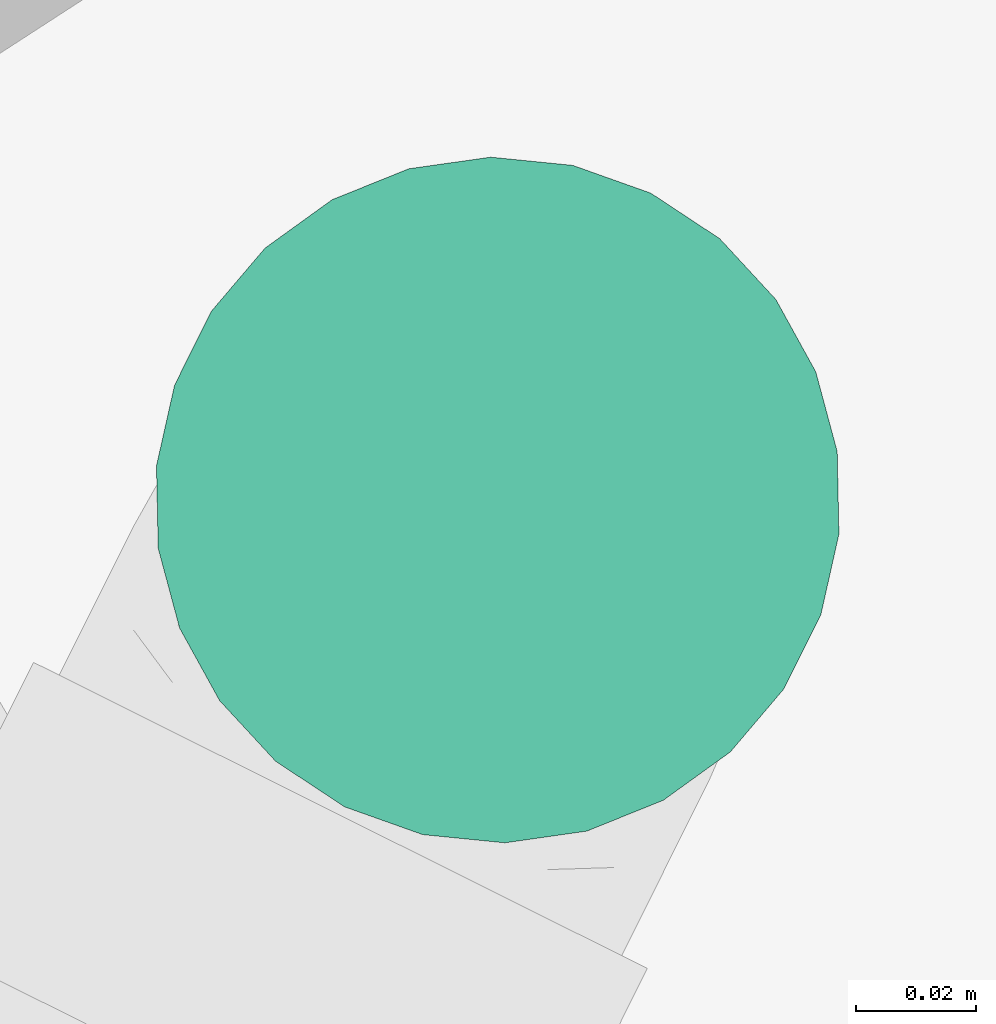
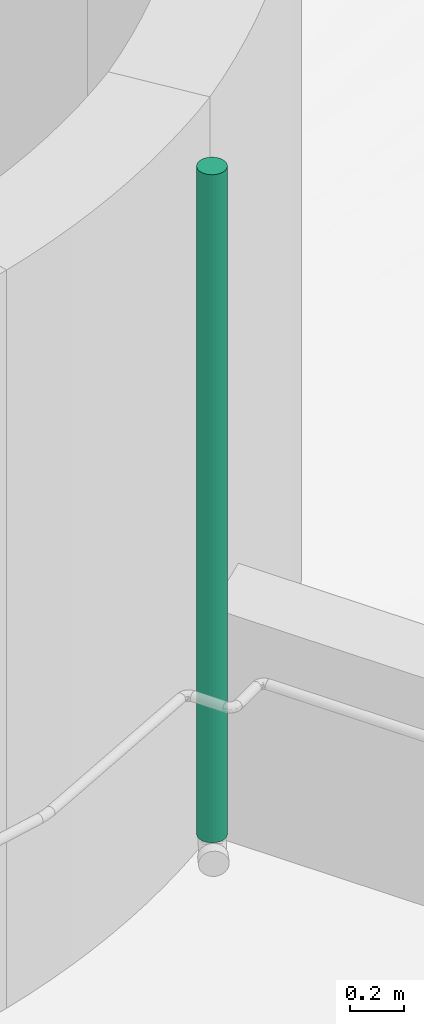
# One storey, part 15 of 34: 1 flow segment.
"""IFC2X3 building model written with IfcOpenShell, lengths in metres."""

import ifcopenshell
import ifcopenshell.guid

model = None  # the IFC model being written
_history = None  # IfcOwnerHistory: only IFC2X3 demands one
_inside = {}  # id of a spatial element -> (the spatial element, [elements in it])
_under = {}  # id of a project, library or spatial element -> (it, [spatial elements below it])
_declared = {}  # id of a project -> (the project, [libraries it declares])
_typed = {}  # id of a type object -> (the type object, [elements of that type])
_made_of = {}  # id of a material, layer set ... -> (it, [elements and type objects made of it])


def new_model(schema):
    """Start an empty IFC model of exactly this schema.

    Asked for "IFC4X3", IfcOpenShell would pick the latest addendum, in which some entities
    have other attributes; the version numbers below select the first issue.
    IFC2X3 requires an IfcOwnerHistory on every rooted entity: one is made here for all.
    """
    global model, _history
    if schema == "IFC4X3":
        model = ifcopenshell.file(schema_version=(4, 3, 0, 0))
    else:
        model = ifcopenshell.file(schema=schema)
    _inside.clear()
    _under.clear()
    _declared.clear()
    _typed.clear()
    _made_of.clear()
    _history = None
    if model.schema == "IFC2X3":
        org = make("IfcOrganization", Name="unknown")
        user = make(
            "IfcPersonAndOrganization",
            ThePerson=make("IfcPerson", FamilyName="unknown"),
            TheOrganization=org,
        )
        app = make(
            "IfcApplication",
            ApplicationDeveloper=org,
            Version="unknown",
            ApplicationFullName="unknown",
            ApplicationIdentifier="unknown",
        )
        _history = make(
            "IfcOwnerHistory",
            OwningUser=user,
            OwningApplication=app,
            ChangeAction="ADDED",
            CreationDate=0,
        )
    return model


def make(cls, **values):
    """One entity of the class cls with the attributes given. An attribute that is None is left unset."""
    return model.create_entity(
        cls, **{name: value for name, value in values.items() if value is not None}
    )


def entity(cls, *values):
    """Any entity or typed value of the class cls, its attributes in the order of the schema. None: left unset."""
    e = model.create_entity(cls)
    for i, value in enumerate(values):
        if value is not None:
            e[i] = value
    return e


def rooted(cls, **values):
    """An entity with a GlobalId (a new one), such as an element, a storey or a relation."""
    return make(cls, GlobalId=ifcopenshell.guid.new(), OwnerHistory=_history, **values)


def si_unit(unit_type, name, prefix=None):
    """IfcSIUnit, for example si_unit("LENGTHUNIT", "METRE", prefix="MILLI")."""
    return make("IfcSIUnit", UnitType=unit_type, Prefix=prefix, Name=name)


def converted_unit(unit_type, name, factor, base, dimensions=None, offset=None):
    """IfcConversionBasedUnit, such as the inch: factor (a typed value) times the base unit."""
    return make(
        "IfcConversionBasedUnit"
        if offset is None
        else "IfcConversionBasedUnitWithOffset",
        ConversionOffset=offset,
        Dimensions=None
        if dimensions is None
        else entity("IfcDimensionalExponents", *dimensions),
        UnitType=unit_type,
        Name=name,
        ConversionFactor=make(
            "IfcMeasureWithUnit", ValueComponent=factor, UnitComponent=base
        ),
    )


def derived_unit(unit_type, elements):
    """IfcDerivedUnit: a product of units, each with its exponent."""
    return make(
        "IfcDerivedUnit",
        Elements=[
            make("IfcDerivedUnitElement", Unit=unit, Exponent=power)
            for unit, power in elements
        ],
        UnitType=unit_type,
    )


def assignment(units):
    """IfcUnitAssignment: the units of a project."""
    return None if units is None else make("IfcUnitAssignment", Units=units)


def point(xyz):
    """IfcCartesianPoint."""
    return None if xyz is None else make("IfcCartesianPoint", Coordinates=xyz)


def direction(xyz):
    """IfcDirection."""
    return None if xyz is None else make("IfcDirection", DirectionRatios=xyz)


def frame(location, z_axis=None, x_axis=None):
    """IfcAxis2Placement3D, a coordinate frame: its origin and axes. An axis left out is left unset."""
    return make(
        "IfcAxis2Placement3D",
        Location=point(location),
        Axis=direction(z_axis),
        RefDirection=direction(x_axis),
    )


def frame_2d(location, x_axis=None):
    """IfcAxis2Placement2D, a coordinate frame in the plane: its origin and x axis."""
    return make(
        "IfcAxis2Placement2D", Location=point(location), RefDirection=direction(x_axis)
    )


def origin():
    """The frame at (0, 0, 0) with its axes left unset."""
    return frame((0.0, 0.0, 0.0))


def origin_2d_with_axis():
    """The frame at (0, 0) in the plane with the x axis (1, 0) written out."""
    return frame_2d((0.0, 0.0), x_axis=(1.0, 0.0))


def place(relative_to, where):
    """IfcLocalPlacement: puts the frame where relative to a parent placement (None: the world)."""
    return make(
        "IfcLocalPlacement", PlacementRelTo=relative_to, RelativePlacement=where
    )


def context(
    kind, dimensions, precision=None, world=None, true_north=None, identifier=None
):
    """IfcGeometricRepresentationContext, for example the 3D "Model" context."""
    return make(
        "IfcGeometricRepresentationContext",
        ContextIdentifier=identifier,
        ContextType=kind,
        CoordinateSpaceDimension=dimensions,
        Precision=precision,
        WorldCoordinateSystem=world,
        TrueNorth=true_north,
    )


def subcontext(parent, identifier, kind, view, scale=None):
    """IfcGeometricRepresentationSubContext, for example "Body" below "Model"."""
    return make(
        "IfcGeometricRepresentationSubContext",
        ContextIdentifier=identifier,
        ContextType=kind,
        ParentContext=parent,
        TargetScale=scale,
        TargetView=view,
    )


def project(units=None, contexts=None):
    """IfcProject with its units and contexts."""
    return rooted(
        "IfcProject",
        Name="project",
        RepresentationContexts=contexts,
        UnitsInContext=assignment(units),
    )


def spatial(cls, under=None, at=None, **own):
    """A site, building, storey or space (cls), placed at a placement, below another one or the project."""
    s = rooted(cls, ObjectPlacement=at, **own)
    if under is not None:
        _under.setdefault(under.id(), (under, []))[1].append(s)
    return s


def profile(cls, at=None, kind="AREA", **sizes):
    """A parametric profile (cls). Its sizes go by their IFC names, for example OverallWidth=200.0."""
    return make(cls, ProfileType=kind, Position=at, **sizes)


def circle(**sizes):
    """IfcCircleProfileDef."""
    return profile("IfcCircleProfileDef", **sizes)


def extrude(swept, where, along, depth):
    """IfcExtrudedAreaSolid: the profile swept, set in the frame where, extruded along a direction by depth."""
    return make(
        "IfcExtrudedAreaSolid",
        SweptArea=swept,
        Position=where,
        ExtrudedDirection=direction(along),
        Depth=depth,
    )


def shape(context_of_items, identifier, shape_type, items):
    """IfcShapeRepresentation: the items that make up one representation, for example the "Body"."""
    return make(
        "IfcShapeRepresentation",
        ContextOfItems=context_of_items,
        RepresentationIdentifier=identifier,
        RepresentationType=shape_type,
        Items=items,
    )


def made_of(thing, what):
    """Note that an element or type object is made of a material, layer set ...; save() writes the relation."""
    if what is not None:
        _made_of.setdefault(what.id(), (what, []))[1].append(thing)
    return thing


def type_object(cls, material=None, **own):
    """A type object (cls), such as IfcWallType, which elements share."""
    return made_of(rooted(cls, **own), material)


def element(
    cls,
    number,
    at=None,
    inside=None,
    cuts=None,
    type_object=None,
    material=None,
    context=None,
    identifier="Body",
    shape_type=None,
    held_by="IfcProductDefinitionShape",
    body=None,
    shapes=None,
    **own,
):
    """One element of the class cls, such as IfcWall. Its Tag is "e" and its number.

    at: its placement. inside: the storey or other place that contains it. cuts: it is an
    opening in that element (IfcRelVoidsElement). A single representation is given by context,
    identifier, shape_type and body (its items); several are given by shapes. held_by: the class
    of the entity that holds the representations. save() writes the other relations.
    """
    e = rooted(cls, Tag="e%d" % number, ObjectPlacement=at, **own)
    if body is not None:
        shapes = [shape(context, identifier, shape_type, body)]
    if shapes is not None:
        e.Representation = make(held_by, Representations=shapes)
    if inside is not None:
        _inside.setdefault(inside.id(), (inside, []))[1].append(e)
    if cuts is not None:
        rooted(
            "IfcRelVoidsElement", RelatingBuildingElement=cuts, RelatedOpeningElement=e
        )
    if type_object is not None:
        _typed.setdefault(type_object.id(), (type_object, []))[1].append(e)
    return made_of(e, material)


def aggregate(whole, parts):
    """IfcRelAggregates: a whole, such as a stair, and the parts it consists of."""
    return rooted("IfcRelAggregates", RelatingObject=whole, RelatedObjects=parts)


def save(model, path):
    """Write the relations noted so far, then the file.

    IfcRelAggregates (storeys below a building ...), IfcRelContainedInSpatialStructure (elements
    in a storey), IfcRelDefinesByType, IfcRelAssociatesMaterial and IfcRelDeclares: one each for
    every whole, place, type object, material and project.
    """
    for whole, parts in _under.values():
        aggregate(whole, parts)
    for where, things in _inside.values():
        rooted(
            "IfcRelContainedInSpatialStructure",
            RelatedElements=things,
            RelatingStructure=where,
        )
    for kind, things in _typed.values():
        rooted("IfcRelDefinesByType", RelatedObjects=things, RelatingType=kind)
    for what, things in _made_of.values():
        rooted("IfcRelAssociatesMaterial", RelatedObjects=things, RelatingMaterial=what)
    for by, libraries in _declared.values():
        rooted("IfcRelDeclares", RelatingContext=by, RelatedDefinitions=libraries)
    model.write(path)


model = new_model("IFC2X3")

# Units and contexts
model_context = context("Model", 3, precision=1e-05, world=origin(), true_north=direction((0.894925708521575, 0.446215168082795)))
context_of_model = context(None, 3, precision=1e-05, world=origin(), true_north=direction((0.894925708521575, 0.446215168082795)))
body_context = subcontext(model_context, "Body", "Model", "MODEL_VIEW")
ifc_project = project(units=[si_unit("LENGTHUNIT", "METRE"), si_unit("AREAUNIT", "SQUARE_METRE"), si_unit("VOLUMEUNIT", "CUBIC_METRE"), converted_unit("PLANEANGLEUNIT", "DEGREE", entity("IfcRatioMeasure", 0.0174532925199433), si_unit("PLANEANGLEUNIT", "RADIAN"), dimensions=[0, 0, 0, 0, 0, 0, 0]), si_unit("MASSUNIT", "GRAM", prefix="KILO"), si_unit("TIMEUNIT", "SECOND"), si_unit("FREQUENCYUNIT", "HERTZ"), si_unit("THERMODYNAMICTEMPERATUREUNIT", "DEGREE_CELSIUS"), derived_unit("THERMALTRANSMITTANCEUNIT", [(si_unit("MASSUNIT", "GRAM", prefix="KILO"), 1), (si_unit("THERMODYNAMICTEMPERATUREUNIT", "KELVIN"), -1), (si_unit("TIMEUNIT", "SECOND"), -3)]), derived_unit("VOLUMETRICFLOWRATEUNIT", [(si_unit("LENGTHUNIT", "METRE"), 3), (si_unit("TIMEUNIT", "SECOND"), -1)]), si_unit("ELECTRICCURRENTUNIT", "AMPERE"), si_unit("ELECTRICVOLTAGEUNIT", "VOLT"), si_unit("POWERUNIT", "WATT"), si_unit("FORCEUNIT", "NEWTON", prefix="KILO"), si_unit("ILLUMINANCEUNIT", "LUX"), si_unit("LUMINOUSFLUXUNIT", "LUMEN"), si_unit("LUMINOUSINTENSITYUNIT", "CANDELA"), si_unit("PRESSUREUNIT", "PASCAL")], contexts=[model_context, context_of_model])

# Site, building, storey
site_placement = place(None, frame((218.228324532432, 584.720189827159, 0.0), z_axis=(0.0, 0.0, 1.0), x_axis=(0.446215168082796, 0.894925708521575, 0.0)))
site = spatial("IfcSite", under=ifc_project, at=site_placement, Name="Default", CompositionType="ELEMENT")
building_placement = place(site_placement, origin())
building = spatial("IfcBuilding", under=site, at=building_placement, CompositionType="ELEMENT")
storey_placement = place(building_placement, frame((0.0, 0.0, 8.61)))
storey = spatial("IfcBuildingStorey", under=building, at=storey_placement, Name="2 - Piano Secondo", CompositionType="ELEMENT", Elevation=8.61)

# Flow segment
pipe_segment_type = type_object("IfcPipeSegmentType", Name="Tubazione:Pluviale-Tubazione Inox", PredefinedType="NOTDEFINED")
flow_segment_placement = place(storey_placement, frame((68.8699536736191, -7.8714897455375, 0.165887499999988)))
element("IfcFlowSegment", 1, at=flow_segment_placement, inside=storey, type_object=pipe_segment_type, Name="Tubazione:Pluviale-Tubazione Inox", ObjectType="Tubazione:Pluviale-Tubazione Inox", context=body_context, shape_type="SweptSolid", body=[
    extrude(circle(Radius=0.05715, at=origin_2d_with_axis()), frame((0.0587452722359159, 0.0587452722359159, 0.0)), (0.0, 0.0, 1.0), 3.02252500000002),
])

save(model, "model.ifc")
